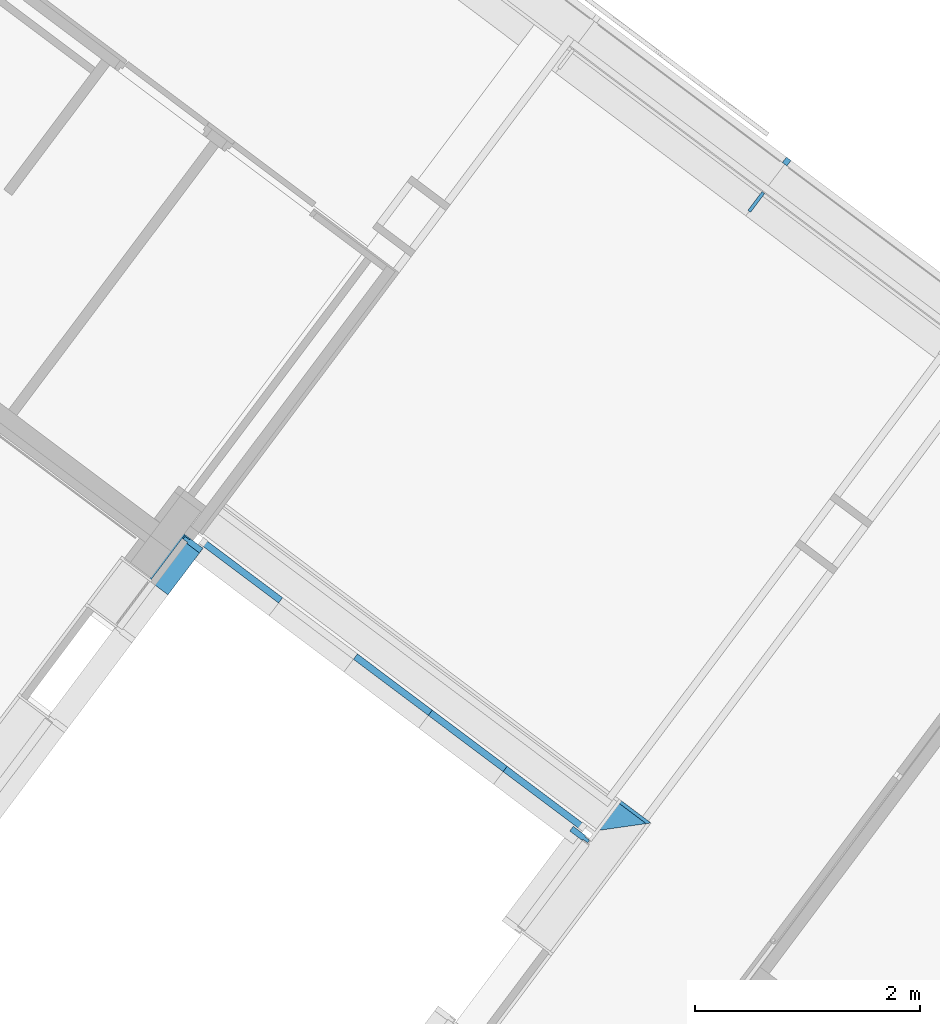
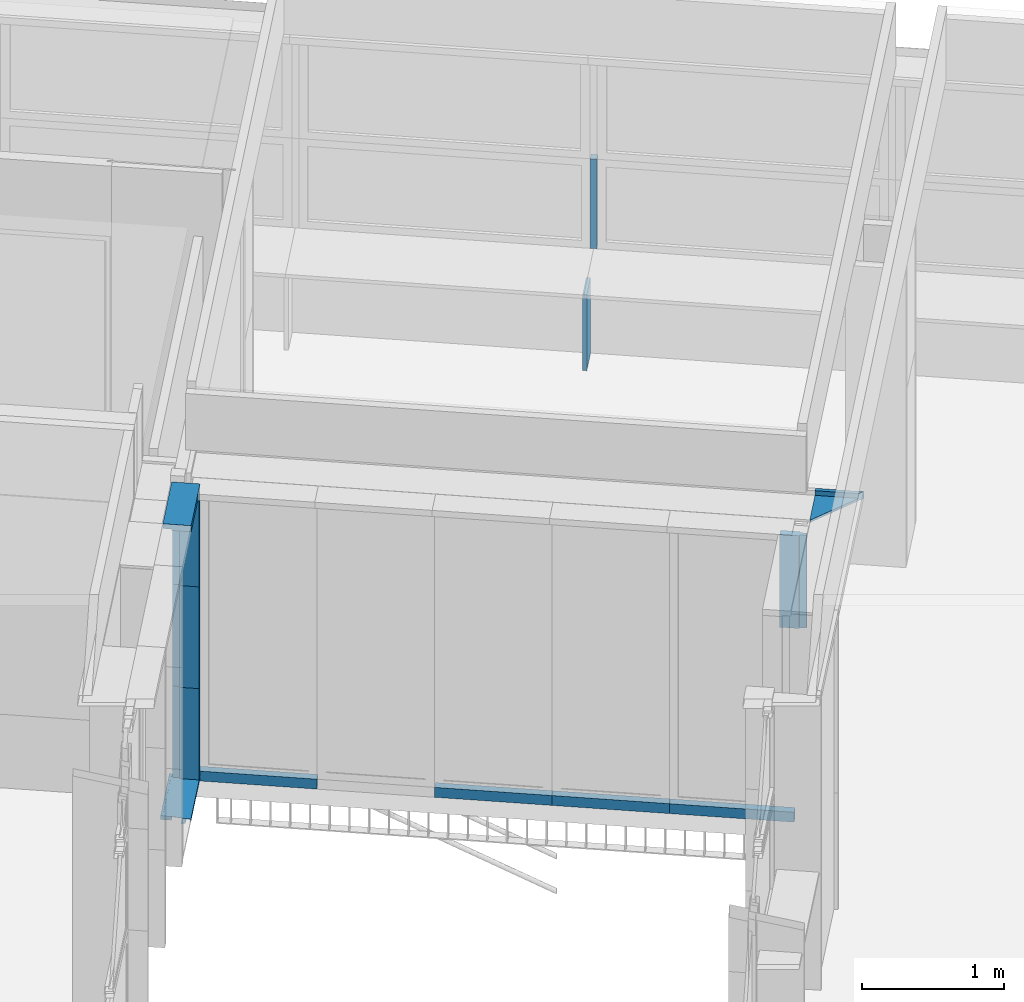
# One storey, part 98 of 243: 13 members, 6 elements without a shape of their own.
"""IFC2X3 building model written with IfcOpenShell, lengths in metres."""

import ifcopenshell
import ifcopenshell.guid

model = None  # the IFC model being written
_history = None  # IfcOwnerHistory: only IFC2X3 demands one
_inside = {}  # id of a spatial element -> (the spatial element, [elements in it])
_under = {}  # id of a project, library or spatial element -> (it, [spatial elements below it])
_declared = {}  # id of a project -> (the project, [libraries it declares])
_typed = {}  # id of a type object -> (the type object, [elements of that type])
_made_of = {}  # id of a material, layer set ... -> (it, [elements and type objects made of it])


def new_model(schema):
    """Start an empty IFC model of exactly this schema.

    Asked for "IFC4X3", IfcOpenShell would pick the latest addendum, in which some entities
    have other attributes; the version numbers below select the first issue.
    IFC2X3 requires an IfcOwnerHistory on every rooted entity: one is made here for all.
    """
    global model, _history
    if schema == "IFC4X3":
        model = ifcopenshell.file(schema_version=(4, 3, 0, 0))
    else:
        model = ifcopenshell.file(schema=schema)
    _inside.clear()
    _under.clear()
    _declared.clear()
    _typed.clear()
    _made_of.clear()
    _history = None
    if model.schema == "IFC2X3":
        org = make("IfcOrganization", Name="unknown")
        user = make(
            "IfcPersonAndOrganization",
            ThePerson=make("IfcPerson", FamilyName="unknown"),
            TheOrganization=org,
        )
        app = make(
            "IfcApplication",
            ApplicationDeveloper=org,
            Version="unknown",
            ApplicationFullName="unknown",
            ApplicationIdentifier="unknown",
        )
        _history = make(
            "IfcOwnerHistory",
            OwningUser=user,
            OwningApplication=app,
            ChangeAction="ADDED",
            CreationDate=0,
        )
    return model


def make(cls, **values):
    """One entity of the class cls with the attributes given. An attribute that is None is left unset."""
    return model.create_entity(
        cls, **{name: value for name, value in values.items() if value is not None}
    )


def entity(cls, *values):
    """Any entity or typed value of the class cls, its attributes in the order of the schema. None: left unset."""
    e = model.create_entity(cls)
    for i, value in enumerate(values):
        if value is not None:
            e[i] = value
    return e


def rooted(cls, **values):
    """An entity with a GlobalId (a new one), such as an element, a storey or a relation."""
    return make(cls, GlobalId=ifcopenshell.guid.new(), OwnerHistory=_history, **values)


def si_unit(unit_type, name, prefix=None):
    """IfcSIUnit, for example si_unit("LENGTHUNIT", "METRE", prefix="MILLI")."""
    return make("IfcSIUnit", UnitType=unit_type, Prefix=prefix, Name=name)


def converted_unit(unit_type, name, factor, base, dimensions=None, offset=None):
    """IfcConversionBasedUnit, such as the inch: factor (a typed value) times the base unit."""
    return make(
        "IfcConversionBasedUnit"
        if offset is None
        else "IfcConversionBasedUnitWithOffset",
        ConversionOffset=offset,
        Dimensions=None
        if dimensions is None
        else entity("IfcDimensionalExponents", *dimensions),
        UnitType=unit_type,
        Name=name,
        ConversionFactor=make(
            "IfcMeasureWithUnit", ValueComponent=factor, UnitComponent=base
        ),
    )


def derived_unit(unit_type, elements):
    """IfcDerivedUnit: a product of units, each with its exponent."""
    return make(
        "IfcDerivedUnit",
        Elements=[
            make("IfcDerivedUnitElement", Unit=unit, Exponent=power)
            for unit, power in elements
        ],
        UnitType=unit_type,
    )


def assignment(units):
    """IfcUnitAssignment: the units of a project."""
    return None if units is None else make("IfcUnitAssignment", Units=units)


def point(xyz):
    """IfcCartesianPoint."""
    return None if xyz is None else make("IfcCartesianPoint", Coordinates=xyz)


def direction(xyz):
    """IfcDirection."""
    return None if xyz is None else make("IfcDirection", DirectionRatios=xyz)


def frame(location, z_axis=None, x_axis=None):
    """IfcAxis2Placement3D, a coordinate frame: its origin and axes. An axis left out is left unset."""
    return make(
        "IfcAxis2Placement3D",
        Location=point(location),
        Axis=direction(z_axis),
        RefDirection=direction(x_axis),
    )


def frame_2d(location, x_axis=None):
    """IfcAxis2Placement2D, a coordinate frame in the plane: its origin and x axis."""
    return make(
        "IfcAxis2Placement2D", Location=point(location), RefDirection=direction(x_axis)
    )


def origin():
    """The frame at (0, 0, 0) with its axes left unset."""
    return frame((0.0, 0.0, 0.0))


def place(relative_to, where):
    """IfcLocalPlacement: puts the frame where relative to a parent placement (None: the world)."""
    return make(
        "IfcLocalPlacement", PlacementRelTo=relative_to, RelativePlacement=where
    )


def context(
    kind, dimensions, precision=None, world=None, true_north=None, identifier=None
):
    """IfcGeometricRepresentationContext, for example the 3D "Model" context."""
    return make(
        "IfcGeometricRepresentationContext",
        ContextIdentifier=identifier,
        ContextType=kind,
        CoordinateSpaceDimension=dimensions,
        Precision=precision,
        WorldCoordinateSystem=world,
        TrueNorth=true_north,
    )


def subcontext(parent, identifier, kind, view, scale=None):
    """IfcGeometricRepresentationSubContext, for example "Body" below "Model"."""
    return make(
        "IfcGeometricRepresentationSubContext",
        ContextIdentifier=identifier,
        ContextType=kind,
        ParentContext=parent,
        TargetScale=scale,
        TargetView=view,
    )


def project(units=None, contexts=None):
    """IfcProject with its units and contexts."""
    return rooted(
        "IfcProject",
        Name="project",
        RepresentationContexts=contexts,
        UnitsInContext=assignment(units),
    )


def spatial(cls, under=None, at=None, **own):
    """A site, building, storey or space (cls), placed at a placement, below another one or the project."""
    s = rooted(cls, ObjectPlacement=at, **own)
    if under is not None:
        _under.setdefault(under.id(), (under, []))[1].append(s)
    return s


def polyline(points):
    """IfcPolyline through the points."""
    return make("IfcPolyline", Points=[point(p) for p in points])


def circle_curve(where, radius):
    """IfcCircle in the frame where."""
    return make("IfcCircle", Position=where, Radius=radius)


def parameter(value):
    """IfcParameterValue: where a trimmed curve begins or ends, as a parameter of its basis curve."""
    return model.create_entity("IfcParameterValue", value)


def trimmed(basis, trim1, trim2, sense, master):
    """IfcTrimmedCurve: the piece of a basis curve between two trims."""
    return make(
        "IfcTrimmedCurve",
        BasisCurve=basis,
        Trim1=trim1,
        Trim2=trim2,
        SenseAgreement=sense,
        MasterRepresentation=master,
    )


def segment(curve, same_sense, transition):
    """IfcCompositeCurveSegment."""
    return make(
        "IfcCompositeCurveSegment",
        Transition=transition,
        SameSense=same_sense,
        ParentCurve=curve,
    )


def composite_curve(segments, self_intersect=None):
    """IfcCompositeCurve: segments joined end to end."""
    return make("IfcCompositeCurve", Segments=segments, SelfIntersect=self_intersect)


def profile(cls, at=None, kind="AREA", **sizes):
    """A parametric profile (cls). Its sizes go by their IFC names, for example OverallWidth=200.0."""
    return make(cls, ProfileType=kind, Position=at, **sizes)


def rectangle(**sizes):
    """IfcRectangleProfileDef."""
    return profile("IfcRectangleProfileDef", **sizes)


def outline(outer, holes=None, kind="AREA"):
    """IfcArbitraryClosedProfileDef: a profile drawn as a closed curve; with holes, ...WithVoids."""
    if holes is None:
        return make("IfcArbitraryClosedProfileDef", ProfileType=kind, OuterCurve=outer)
    return make(
        "IfcArbitraryProfileDefWithVoids",
        ProfileType=kind,
        OuterCurve=outer,
        InnerCurves=holes,
    )


def extrude(swept, where, along, depth):
    """IfcExtrudedAreaSolid: the profile swept, set in the frame where, extruded along a direction by depth."""
    return make(
        "IfcExtrudedAreaSolid",
        SweptArea=swept,
        Position=where,
        ExtrudedDirection=direction(along),
        Depth=depth,
    )


def clip(a, b, op="DIFFERENCE"):
    """IfcBooleanClippingResult: the solid a cut by the half space b."""
    return make(
        "IfcBooleanClippingResult", Operator=op, FirstOperand=a, SecondOperand=b
    )


def halfspace(plane, agree):
    """IfcHalfSpaceSolid: all space on one side of the plane z = 0 of the frame plane."""
    return make(
        "IfcHalfSpaceSolid",
        BaseSurface=make("IfcPlane", Position=plane),
        AgreementFlag=agree,
    )


def shape(context_of_items, identifier, shape_type, items):
    """IfcShapeRepresentation: the items that make up one representation, for example the "Body"."""
    return make(
        "IfcShapeRepresentation",
        ContextOfItems=context_of_items,
        RepresentationIdentifier=identifier,
        RepresentationType=shape_type,
        Items=items,
    )


def source(mapping_origin, context_of_items, identifier, shape_type, items):
    """IfcRepresentationMap: a shape defined once, which mapped items show again and again."""
    return make(
        "IfcRepresentationMap",
        MappingOrigin=mapping_origin,
        MappedRepresentation=shape(context_of_items, identifier, shape_type, items),
    )


def transform(
    local_origin,
    x_axis=None,
    y_axis=None,
    z_axis=None,
    scale=None,
    scale2=None,
    scale3=None,
    uniform=True,
):
    """IfcCartesianTransformationOperator3D, or its non-uniform kind. x_axis, y_axis, z_axis: its Axis1, 2, 3."""
    if uniform:
        return make(
            "IfcCartesianTransformationOperator3D",
            Axis1=direction(x_axis),
            Axis2=direction(y_axis),
            LocalOrigin=point(local_origin),
            Scale=scale,
            Axis3=direction(z_axis),
        )
    return make(
        "IfcCartesianTransformationOperator3DnonUniform",
        Axis1=direction(x_axis),
        Axis2=direction(y_axis),
        LocalOrigin=point(local_origin),
        Scale=scale,
        Axis3=direction(z_axis),
        Scale2=scale2,
        Scale3=scale3,
    )


def mapped(mapping_source, mapping_target):
    """IfcMappedItem: shows the shape of a source again, moved by a transform."""
    return make(
        "IfcMappedItem", MappingSource=mapping_source, MappingTarget=mapping_target
    )


def material(Name=None, Category=None):
    """IfcMaterial."""
    return make("IfcMaterial", Name=Name, Category=Category)


def made_of(thing, what):
    """Note that an element or type object is made of a material, layer set ...; save() writes the relation."""
    if what is not None:
        _made_of.setdefault(what.id(), (what, []))[1].append(thing)
    return thing


def type_object(cls, material=None, **own):
    """A type object (cls), such as IfcWallType, which elements share."""
    return made_of(rooted(cls, **own), material)


def type_shapes(of_type, sources):
    """Give a type object the sources (RepresentationMaps) that its elements show as mapped items."""
    of_type.RepresentationMaps = sources


def element(
    cls,
    number,
    at=None,
    inside=None,
    cuts=None,
    type_object=None,
    material=None,
    context=None,
    identifier="Body",
    shape_type=None,
    held_by="IfcProductDefinitionShape",
    body=None,
    shapes=None,
    **own,
):
    """One element of the class cls, such as IfcWall. Its Tag is "e" and its number.

    at: its placement. inside: the storey or other place that contains it. cuts: it is an
    opening in that element (IfcRelVoidsElement). A single representation is given by context,
    identifier, shape_type and body (its items); several are given by shapes. held_by: the class
    of the entity that holds the representations. save() writes the other relations.
    """
    e = rooted(cls, Tag="e%d" % number, ObjectPlacement=at, **own)
    if body is not None:
        shapes = [shape(context, identifier, shape_type, body)]
    if shapes is not None:
        e.Representation = make(held_by, Representations=shapes)
    if inside is not None:
        _inside.setdefault(inside.id(), (inside, []))[1].append(e)
    if cuts is not None:
        rooted(
            "IfcRelVoidsElement", RelatingBuildingElement=cuts, RelatedOpeningElement=e
        )
    if type_object is not None:
        _typed.setdefault(type_object.id(), (type_object, []))[1].append(e)
    return made_of(e, material)


def aggregate(whole, parts):
    """IfcRelAggregates: a whole, such as a stair, and the parts it consists of."""
    return rooted("IfcRelAggregates", RelatingObject=whole, RelatedObjects=parts)


def save(model, path):
    """Write the relations noted so far, then the file.

    IfcRelAggregates (storeys below a building ...), IfcRelContainedInSpatialStructure (elements
    in a storey), IfcRelDefinesByType, IfcRelAssociatesMaterial and IfcRelDeclares: one each for
    every whole, place, type object, material and project.
    """
    for whole, parts in _under.values():
        aggregate(whole, parts)
    for where, things in _inside.values():
        rooted(
            "IfcRelContainedInSpatialStructure",
            RelatedElements=things,
            RelatingStructure=where,
        )
    for kind, things in _typed.values():
        rooted("IfcRelDefinesByType", RelatedObjects=things, RelatingType=kind)
    for what, things in _made_of.values():
        rooted("IfcRelAssociatesMaterial", RelatedObjects=things, RelatingMaterial=what)
    for by, libraries in _declared.values():
        rooted("IfcRelDeclares", RelatingContext=by, RelatedDefinitions=libraries)
    model.write(path)


model = new_model("IFC2X3")

# Units and contexts
model_context = context("Model", 3, precision=1e-05, world=origin(), true_north=direction((6.123031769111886e-17, 1.0)))
body_context = subcontext(model_context, "Body", "Model", "MODEL_VIEW")
ifc_project = project(units=[si_unit("LENGTHUNIT", "METRE"), si_unit("AREAUNIT", "SQUARE_METRE"), si_unit("VOLUMEUNIT", "CUBIC_METRE"), converted_unit("PLANEANGLEUNIT", "DEGREE", entity("IfcRatioMeasure", 0.017453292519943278), si_unit("PLANEANGLEUNIT", "RADIAN"), dimensions=[0, 0, 0, 0, 0, 0, 0]), si_unit("MASSUNIT", "GRAM", prefix="KILO"), derived_unit("MASSDENSITYUNIT", [(si_unit("MASSUNIT", "GRAM", prefix="KILO"), 1), (si_unit("LENGTHUNIT", "METRE"), -3)]), derived_unit("IONCONCENTRATIONUNIT", [(si_unit("MASSUNIT", "GRAM", prefix="KILO"), 1), (si_unit("LENGTHUNIT", "METRE"), -3)]), derived_unit("MOMENTOFINERTIAUNIT", [(si_unit("LENGTHUNIT", "METRE"), 4)]), si_unit("TIMEUNIT", "SECOND"), si_unit("FREQUENCYUNIT", "HERTZ"), si_unit("THERMODYNAMICTEMPERATUREUNIT", "DEGREE_CELSIUS"), derived_unit("THERMALTRANSMITTANCEUNIT", [(si_unit("MASSUNIT", "GRAM", prefix="KILO"), 1), (si_unit("THERMODYNAMICTEMPERATUREUNIT", "KELVIN"), -1), (si_unit("TIMEUNIT", "SECOND"), -3)]), derived_unit("THERMALCONDUCTANCEUNIT", [(si_unit("MASSUNIT", "GRAM", prefix="KILO"), 1), (si_unit("THERMODYNAMICTEMPERATUREUNIT", "KELVIN"), -1), (si_unit("TIMEUNIT", "SECOND"), -3), (si_unit("LENGTHUNIT", "METRE"), 1)]), derived_unit("VOLUMETRICFLOWRATEUNIT", [(si_unit("LENGTHUNIT", "METRE"), 3), (si_unit("TIMEUNIT", "SECOND"), -1)]), derived_unit("MASSFLOWRATEUNIT", [(si_unit("MASSUNIT", "GRAM", prefix="KILO"), 1), (si_unit("TIMEUNIT", "SECOND"), -1)]), derived_unit("ROTATIONALFREQUENCYUNIT", [(si_unit("TIMEUNIT", "SECOND"), -1)]), si_unit("ELECTRICCURRENTUNIT", "AMPERE"), si_unit("ELECTRICVOLTAGEUNIT", "VOLT"), si_unit("POWERUNIT", "WATT"), si_unit("FORCEUNIT", "NEWTON", prefix="KILO"), si_unit("ILLUMINANCEUNIT", "LUX"), si_unit("LUMINOUSFLUXUNIT", "LUMEN"), si_unit("LUMINOUSINTENSITYUNIT", "CANDELA"), derived_unit("USERDEFINED", [(si_unit("MASSUNIT", "GRAM", prefix="KILO"), -1), (si_unit("LENGTHUNIT", "METRE"), -2), (si_unit("TIMEUNIT", "SECOND"), 3), (si_unit("LUMINOUSFLUXUNIT", "LUMEN"), 1)]), derived_unit("USERDEFINED", [(si_unit("MASSUNIT", "GRAM", prefix="KILO"), 1), (si_unit("TIMEUNIT", "SECOND"), -3), (si_unit("LENGTHUNIT", "METRE"), 3), (si_unit("ELECTRICCURRENTUNIT", "AMPERE"), -2)]), derived_unit("SOUNDPOWERUNIT", [(si_unit("MASSUNIT", "GRAM", prefix="KILO"), 1), (si_unit("TIMEUNIT", "SECOND"), -3), (si_unit("LENGTHUNIT", "METRE"), 2)]), derived_unit("SOUNDPRESSUREUNIT", [(si_unit("MASSUNIT", "GRAM", prefix="KILO"), 1), (si_unit("LENGTHUNIT", "METRE"), -1), (si_unit("TIMEUNIT", "SECOND"), -2)]), derived_unit("LINEARVELOCITYUNIT", [(si_unit("LENGTHUNIT", "METRE"), 1), (si_unit("TIMEUNIT", "SECOND"), -1)]), si_unit("PRESSUREUNIT", "PASCAL"), derived_unit("USERDEFINED", [(si_unit("MASSUNIT", "GRAM", prefix="KILO"), 1), (si_unit("LENGTHUNIT", "METRE"), -2), (si_unit("TIMEUNIT", "SECOND"), -2)]), derived_unit("LINEARFORCEUNIT", [(si_unit("MASSUNIT", "GRAM", prefix="KILO"), 1), (si_unit("TIMEUNIT", "SECOND"), -2)]), derived_unit("PLANARFORCEUNIT", [(si_unit("MASSUNIT", "GRAM", prefix="KILO"), 1), (si_unit("LENGTHUNIT", "METRE"), -1), (si_unit("TIMEUNIT", "SECOND"), -2)]), derived_unit("SPECIFICHEATCAPACITYUNIT", [(si_unit("THERMODYNAMICTEMPERATUREUNIT", "KELVIN"), -1), (si_unit("LENGTHUNIT", "METRE"), 2), (si_unit("TIMEUNIT", "SECOND"), -2)]), derived_unit("HEATINGVALUEUNIT", [(si_unit("LENGTHUNIT", "METRE"), 2), (si_unit("TIMEUNIT", "SECOND"), -2)]), derived_unit("VAPORPERMEABILITYUNIT", [(si_unit("LENGTHUNIT", "METRE"), -1), (si_unit("TIMEUNIT", "SECOND"), 1)]), derived_unit("DYNAMICVISCOSITYUNIT", [(si_unit("MASSUNIT", "GRAM", prefix="KILO"), 1), (si_unit("TIMEUNIT", "SECOND"), -1), (si_unit("LENGTHUNIT", "METRE"), -1)]), derived_unit("THERMALEXPANSIONCOEFFICIENTUNIT", [(si_unit("THERMODYNAMICTEMPERATUREUNIT", "KELVIN"), -1)]), derived_unit("MODULUSOFELASTICITYUNIT", [(si_unit("MASSUNIT", "GRAM", prefix="KILO"), 1), (si_unit("LENGTHUNIT", "METRE"), -1), (si_unit("TIMEUNIT", "SECOND"), -2)]), derived_unit("ISOTHERMALMOISTURECAPACITYUNIT", [(si_unit("LENGTHUNIT", "METRE"), 3), (si_unit("MASSUNIT", "GRAM", prefix="KILO"), -1)]), derived_unit("MOISTUREDIFFUSIVITYUNIT", [(si_unit("TIMEUNIT", "SECOND"), -1), (si_unit("LENGTHUNIT", "METRE"), 2)])], contexts=[model_context])

# Site, building, storey
site_placement = place(None, frame((0.0, 0.0, 235.0), z_axis=(0.0, 0.0, 1.0), x_axis=(-0.7996477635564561, 0.6004693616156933, 0.0)))
site = spatial("IfcSite", under=ifc_project, at=site_placement, Name="Default", CompositionType="ELEMENT")
building_placement = place(site_placement, origin())
building = spatial("IfcBuilding", under=site, at=building_placement, CompositionType="ELEMENT")
storey_placement = place(building_placement, origin())
storey = spatial("IfcBuildingStorey", under=building, at=storey_placement, Name="P0- Escola", CompositionType="ELEMENT", Elevation=0.0)

# Curtain wall, members
curtain_wall_type_1 = type_object("IfcCurtainWallType", Name="Muro cortina:MC- EXT- MC2", PredefinedType="NOTDEFINED")
curtain_wall_1_placement = place(storey_placement, origin())
curtain_wall_1 = element("IfcCurtainWall", 1, at=curtain_wall_1_placement, inside=storey, type_object=curtain_wall_type_1, Name="Muro cortina:MC- EXT- MC2", ObjectType="Muro cortina:MC- EXT- MC2")
ifc_material_1 = material(Name="_Alumini- T1- Perfil")
member_type_1 = type_object("IfcMemberType", Name="Montante rectangular:MC- Alu- 140x52,5 cm- Fa patis- Centre", PredefinedType="MULLION", material=ifc_material_1)
shared_shape_1 = source(origin(), body_context, "Body", "SweptSolid", [
    extrude(outline(polyline([(-0.11699999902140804, -0.026250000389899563), (0.021999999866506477, -0.026250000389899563), (0.021999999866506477, -0.015000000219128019), (0.07299999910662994, -0.015000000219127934), (0.07299999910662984, 0.015000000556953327), (0.02200000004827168, 0.015000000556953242), (0.02200000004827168, 0.026250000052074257), (-0.11699999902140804, 0.026250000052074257), (-0.11699999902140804, -0.026250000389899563)])), frame((-0.026250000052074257, 0.022999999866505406, -0.8750000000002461), z_axis=(0.0, 0.0, 1.0), x_axis=(0.0, -1.0, 0.0)), (0.0, 0.0, 1.0), 0.8750000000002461),
])
type_shapes(member_type_1, [shared_shape_1])
member_1_placement = place(curtain_wall_1_placement, frame((53.745147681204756, -36.441389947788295, 0.8200000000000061), z_axis=(0.0, 0.0, -1.0), x_axis=(0.0, -1.0, 0.0)))
member_1 = element("IfcMember", 2, at=member_1_placement, type_object=member_type_1, material=ifc_material_1, Name="Montante rectangular:MC- Alu- 140x52,5 cm- Fa patis- Centre", ObjectType="Montante rectangular:MC- Alu- 140x52,5 cm- Fa patis- Centre", context=body_context, shape_type="MappedRepresentation", body=[
    mapped(shared_shape_1, transform((0.0, 0.0, 0.0), scale=1.0)),
])
member_type_2 = type_object("IfcMemberType", Name="Montante rectangular:MC- Alu- 140x52,5 cm- Fa patis- Superior", PredefinedType="MULLION", material=ifc_material_1)
shared_shape_2 = source(origin(), body_context, "Body", "SweptSolid", [
    extrude(outline(polyline([(-0.11366666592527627, -0.021249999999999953), (0.02633333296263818, -0.021249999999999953), (0.02633333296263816, -0.010000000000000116), (0.08733333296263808, -0.010000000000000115), (0.08733333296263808, 0.03125000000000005), (-0.11366666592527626, 0.031250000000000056), (-0.11366666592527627, -0.021249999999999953)])), frame((-0.031250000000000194, 0.027333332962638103, -0.518199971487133), z_axis=(0.0, 0.0, 1.0), x_axis=(0.0, -1.0, 0.0)), (0.0, 0.0, 1.0), 0.518199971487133),
])
type_shapes(member_type_2, [shared_shape_2])
member_2_placement = place(curtain_wall_1_placement, frame((53.745147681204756, -36.441389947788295, 2.545), z_axis=(0.0, -1.0, 0.0), x_axis=(0.0, 0.0, 1.0)))
member_2 = element("IfcMember", 3, at=member_2_placement, type_object=member_type_2, material=ifc_material_1, Name="Montante rectangular:MC- Alu- 140x52,5 cm- Fa patis- Superior", ObjectType="Montante rectangular:MC- Alu- 140x52,5 cm- Fa patis- Superior", context=body_context, shape_type="MappedRepresentation", body=[
    mapped(shared_shape_2, transform((0.0, 0.0, 0.0), scale=1.0)),
])
member_type_3 = type_object("IfcMemberType", Name="Montante rectangular:MC- Alu- 140x52,5 cm- Fa patis- Centre", PredefinedType="MULLION", material=ifc_material_1)
shared_shape_3 = source(origin(), body_context, "Body", "SweptSolid", [
    extrude(outline(polyline([(-0.11699999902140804, -0.026250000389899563), (0.021999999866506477, -0.026250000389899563), (0.021999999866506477, -0.015000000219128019), (0.07299999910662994, -0.015000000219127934), (0.07299999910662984, 0.015000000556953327), (0.02200000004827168, 0.015000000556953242), (0.02200000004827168, 0.026250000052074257), (-0.11699999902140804, 0.026250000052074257), (-0.11699999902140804, -0.026250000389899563)])), frame((-0.026250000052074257, 0.022999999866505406, -0.7850000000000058), z_axis=(0.0, 0.0, 1.0), x_axis=(0.0, -1.0, 0.0)), (0.0, 0.0, 1.0), 0.7850000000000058),
])
type_shapes(member_type_3, [shared_shape_3])
member_3_placement = place(curtain_wall_1_placement, frame((53.745147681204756, -36.441389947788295, 0.035000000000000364), z_axis=(0.0, 0.0, -1.0), x_axis=(0.0, -1.0, 0.0)))
member_3 = element("IfcMember", 4, at=member_3_placement, type_object=member_type_3, material=ifc_material_1, Name="Montante rectangular:MC- Alu- 140x52,5 cm- Fa patis- Centre", ObjectType="Montante rectangular:MC- Alu- 140x52,5 cm- Fa patis- Centre", context=body_context, shape_type="MappedRepresentation", body=[
    mapped(shared_shape_3, transform((0.0, 0.0, 0.0), scale=1.0)),
])
member_type_4 = type_object("IfcMemberType", Name="Montante rectangular:MC- Alu- 140x52,5 cm- Fa patis- inferior", PredefinedType="MULLION", material=ifc_material_1)
shared_shape_4 = source(origin(), body_context, "Body", "SweptSolid", [
    extrude(outline(composite_curve([segment(polyline([(0.1278672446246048, -0.025867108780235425), (0.14416724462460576, -0.025867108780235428)]), True, "CONTINUOUS"), segment(polyline([(0.14416724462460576, -0.025867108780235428), (0.1441672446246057, 0.009132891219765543)]), True, "CONTINUOUS"), segment(polyline([(0.1441672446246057, 0.009132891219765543), (0.06786724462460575, 0.00913289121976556)]), True, "CONTINUOUS"), segment(polyline([(0.06786724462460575, 0.00913289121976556), (0.06786724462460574, -0.021159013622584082)]), True, "CONTINUOUS"), segment(polyline([(0.06786724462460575, -0.021159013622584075), (-0.030132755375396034, -0.012332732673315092)]), True, "CONTINUOUS"), segment(polyline([(-0.03013275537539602, -0.012332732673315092), (-0.030132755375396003, 0.02713289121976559)]), True, "CONTINUOUS"), segment(polyline([(-0.030132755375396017, 0.027132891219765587), (-0.0021327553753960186, 0.027132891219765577)]), True, "CONTINUOUS"), segment(polyline([(-0.0021327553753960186, 0.02713289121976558), (-0.0021327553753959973, 0.02913289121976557)]), True, "CONTINUOUS"), segment(polyline([(-0.0021327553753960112, 0.02913289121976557), (-0.032132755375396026, 0.029132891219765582)]), True, "CONTINUOUS"), segment(polyline([(-0.032132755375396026, 0.029132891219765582), (-0.03213275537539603, -0.012152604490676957)]), True, "CONTINUOUS"), segment(polyline([(-0.03213275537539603, -0.012152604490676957), (-0.0701327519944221, -0.008730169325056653)]), True, "CONTINUOUS"), segment(polyline([(-0.0701327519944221, -0.008730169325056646), (-0.0701327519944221, 0.005766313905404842)]), True, "CONTINUOUS"), segment(trimmed(circle_curve(frame_2d((-0.0696327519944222, 0.00576631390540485), x_axis=(-1.0, 0.0)), 0.0004999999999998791), [parameter(269.999999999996)], [parameter(0.0)], True, "PARAMETER"), False, "CONTINUOUS"), segment(polyline([(-0.0696327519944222, 0.0062663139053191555), (-0.06213275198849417, 0.006266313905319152)]), True, "CONTINUOUS"), segment(polyline([(-0.06213275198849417, 0.006266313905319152), (-0.06213275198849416, 0.008266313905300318)]), True, "CONTINUOUS"), segment(polyline([(-0.06213275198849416, 0.008266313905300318), (-0.07013275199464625, 0.00826631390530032)]), True, "CONTINUOUS"), segment(trimmed(circle_curve(frame_2d((-0.07013275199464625, 0.006266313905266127), x_axis=(0.0, 1.0)), 0.0020000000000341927), [parameter(0.0)], [parameter(90.00000002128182)], True, "PARAMETER"), True, "CONTINUOUS"), segment(polyline([(-0.07213275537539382, 0.00626631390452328), (-0.07213275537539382, -0.008730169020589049)]), True, "CONTINUOUS"), segment(trimmed(circle_curve(frame_2d((-0.07013275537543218, -0.008730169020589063), x_axis=(-1.0, 0.0)), 0.0019999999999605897), [parameter(0.0)], [parameter(84.85359280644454)], True, "PARAMETER"), True, "CONTINUOUS"), segment(polyline([(-0.07031215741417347, -0.010722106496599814), (0.06786724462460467, -0.023167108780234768)]), True, "CONTINUOUS"), segment(polyline([(0.06786724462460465, -0.02316710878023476), (0.12786724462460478, -0.02316710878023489)]), True, "CONTINUOUS"), segment(polyline([(0.12786724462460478, -0.02316710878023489), (0.1278672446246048, -0.025867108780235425)]), True, "CONTINUOUS")], self_intersect=False)), frame((-0.029132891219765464, 0.06786724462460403, -0.518199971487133), z_axis=(0.0, 0.0, 1.0), x_axis=(0.0, -1.0, 0.0)), (0.0, 0.0, 1.0), 0.518199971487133),
])
type_shapes(member_type_4, [shared_shape_4])
member_4_placement = place(curtain_wall_1_placement, frame((53.745147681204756, -35.92318997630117, -0.02), z_axis=(0.0, 1.0, 0.0), x_axis=(0.0, 0.0, -1.0)))
member_4 = element("IfcMember", 5, at=member_4_placement, type_object=member_type_4, material=ifc_material_1, Name="Montante rectangular:MC- Alu- 140x52,5 cm- Fa patis- inferior", ObjectType="Montante rectangular:MC- Alu- 140x52,5 cm- Fa patis- inferior", context=body_context, shape_type="MappedRepresentation", body=[
    mapped(shared_shape_4, transform((0.0, 0.0, 0.0), scale=1.0)),
])
member_type_5 = type_object("IfcMemberType", Name="Montante rectangular:MC- Alu- 140x52,5 cm- Fa patis- Centre", PredefinedType="MULLION", material=ifc_material_1)
shared_shape_5 = source(origin(), body_context, "Body", "SweptSolid", [
    extrude(outline(polyline([(-0.11699999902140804, -0.026250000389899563), (0.021999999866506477, -0.026250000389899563), (0.021999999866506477, -0.015000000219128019), (0.07299999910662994, -0.015000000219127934), (0.07299999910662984, 0.015000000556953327), (0.02200000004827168, 0.015000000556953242), (0.02200000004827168, 0.026250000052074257), (-0.11699999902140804, 0.026250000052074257), (-0.11699999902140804, -0.026250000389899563)])), frame((-0.026250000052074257, 0.022999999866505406, -0.79749999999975), z_axis=(0.0, 0.0, 1.0), x_axis=(0.0, -1.0, 0.0)), (0.0, 0.0, 1.0), 0.79749999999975),
])
type_shapes(member_type_5, [shared_shape_5])
member_5_placement = place(curtain_wall_1_placement, frame((53.745147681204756, -36.441389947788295, 1.6950000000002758), z_axis=(0.0, 0.0, -1.0), x_axis=(0.0, -1.0, 0.0)))
member_5 = element("IfcMember", 6, at=member_5_placement, type_object=member_type_5, material=ifc_material_1, Name="Montante rectangular:MC- Alu- 140x52,5 cm- Fa patis- Centre", ObjectType="Montante rectangular:MC- Alu- 140x52,5 cm- Fa patis- Centre", context=body_context, shape_type="MappedRepresentation", body=[
    mapped(shared_shape_5, transform((0.0, 0.0, 0.0), scale=1.0)),
])
aggregate(curtain_wall_1, [member_2, member_3, member_4, member_1, member_5])

# Curtain wall, member
curtain_wall_type_2 = type_object("IfcCurtainWallType", Name="Muro cortina:MC- EXT- MC5", PredefinedType="NOTDEFINED")
curtain_wall_2_placement = place(storey_placement, origin())
curtain_wall_2 = element("IfcCurtainWall", 7, at=curtain_wall_2_placement, inside=storey, type_object=curtain_wall_type_2, Name="Muro cortina:MC- EXT- MC5", ObjectType="Muro cortina:MC- EXT- MC5")
member_type_6 = type_object("IfcMemberType", Name="Montante rectangular:MC- Alu- 140x52,5 cm- Fa patis- Centre", PredefinedType="MULLION", material=ifc_material_1)
shared_shape_6 = source(origin(), body_context, "Body", "SweptSolid", [
    extrude(outline(polyline([(-0.021999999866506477, -0.026250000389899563), (0.11699999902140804, -0.026250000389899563), (0.11699999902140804, 0.026250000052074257), (-0.02200000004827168, 0.026250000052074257), (-0.02200000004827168, 0.015000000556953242), (-0.07299999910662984, 0.015000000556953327), (-0.07299999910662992, -0.015000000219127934), (-0.021999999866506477, -0.015000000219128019), (-0.021999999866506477, -0.026250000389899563)])), frame((-0.026250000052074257, -0.022999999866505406, -0.7974999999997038), z_axis=(0.0, 0.0, 1.0), x_axis=(0.0, -1.0, 0.0)), (0.0, 0.0, 1.0), 0.7974999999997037),
])
type_shapes(member_type_6, [shared_shape_6])
member_6_placement = place(curtain_wall_2_placement, frame((49.345147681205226, -36.44138994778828, 1.695000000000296), z_axis=(0.0, 0.0, -1.0), x_axis=(0.0, -1.0, 0.0)))
member_6 = element("IfcMember", 8, at=member_6_placement, type_object=member_type_6, material=ifc_material_1, Name="Montante rectangular:MC- Alu- 140x52,5 cm- Fa patis- Centre", ObjectType="Montante rectangular:MC- Alu- 140x52,5 cm- Fa patis- Centre", context=body_context, shape_type="MappedRepresentation", body=[
    mapped(shared_shape_6, transform((0.0, 0.0, 0.0), scale=1.0)),
])
aggregate(curtain_wall_2, [member_6])

curtain_wall_type_3 = type_object("IfcCurtainWallType", Name="Muro cortina:MC- EXT- MC6", PredefinedType="NOTDEFINED")
curtain_wall_3_placement = place(storey_placement, origin())
curtain_wall_3 = element("IfcCurtainWall", 9, at=curtain_wall_3_placement, inside=storey, type_object=curtain_wall_type_3, Name="Muro cortina:MC- EXT- MC6", ObjectType="Muro cortina:MC- EXT- MC6")
member_type_7 = type_object("IfcMemberType", Name="Montante rectangular:MC- Alu- 50x60 cm- Fa pista- Centre", PredefinedType="MULLION", material=ifc_material_1)
shared_shape_7 = source(origin(), body_context, "Body", "SweptSolid", [
    extrude(rectangle(XDim=0.0600000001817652, YDim=0.05, at=frame_2d((8.673617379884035e-18, 0.0), x_axis=(1.0, 0.0))), frame((0.0, -0.030000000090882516, -0.77), z_axis=(0.0, 0.0, 1.0), x_axis=(0.0, -1.0, 0.0)), (0.0, 0.0, 1.0), 0.77),
])
type_shapes(member_type_7, [shared_shape_7])
member_7_placement = place(curtain_wall_3_placement, frame((51.51814360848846, -42.340191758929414, 0.685), z_axis=(0.0, 0.0, -1.0), x_axis=(1.0, 0.0, 0.0)))
member_7 = element("IfcMember", 10, at=member_7_placement, type_object=member_type_7, material=ifc_material_1, Name="Montante rectangular:MC- Alu- 50x60 cm- Fa pista- Centre", ObjectType="Montante rectangular:MC- Alu- 50x60 cm- Fa pista- Centre", context=body_context, shape_type="MappedRepresentation", body=[
    mapped(shared_shape_7, transform((0.0, 0.0, 0.0), scale=1.0)),
])
aggregate(curtain_wall_3, [member_7])

curtain_wall_type_4 = type_object("IfcCurtainWallType", PredefinedType="NOTDEFINED")
curtain_wall_4_placement = place(storey_placement, origin())
curtain_wall_4 = element("IfcCurtainWall", 11, at=curtain_wall_4_placement, inside=storey, type_object=curtain_wall_type_4)
ifc_material_2 = material(Name="_Fusta massisa- T1")
member_type_8 = type_object("IfcMemberType", Name="Montante rectangular:MC- Fusta- 34x3 cm- Fa Pista- Pota taula", PredefinedType="MULLION", material=ifc_material_2)
shared_shape_8 = source(origin(), body_context, "Body", "SweptSolid", [
    extrude(rectangle(XDim=0.21000000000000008, YDim=0.03000000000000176, at=frame_2d((1.3877787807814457e-17, 1.717376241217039e-16), x_axis=(1.0, 0.0))), frame((0.0, -0.1700000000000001, -0.655000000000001), z_axis=(0.0, 0.0, 1.0), x_axis=(0.0, -1.0, 0.0)), (0.0, 0.0, 1.0), 0.655000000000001),
])
type_shapes(member_type_8, [shared_shape_8])
member_8_placement = place(curtain_wall_4_placement, frame((51.518143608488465, -42.03019175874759, 0.0), z_axis=(0.0, 0.0, -1.0), x_axis=(1.0, 0.0, 0.0)))
member_8 = element("IfcMember", 12, at=member_8_placement, type_object=member_type_8, material=ifc_material_2, Name="Montante rectangular:MC- Fusta- 34x3 cm- Fa Pista- Pota taula", ObjectType="Montante rectangular:MC- Fusta- 34x3 cm- Fa Pista- Pota taula", context=body_context, shape_type="MappedRepresentation", body=[
    mapped(shared_shape_8, transform((0.0, 0.0, 0.0), scale=1.0)),
])
aggregate(curtain_wall_4, [member_8])

curtain_wall_type_5 = type_object("IfcCurtainWallType", Name="Muro cortina:MC- INT- k2", PredefinedType="NOTDEFINED")
curtain_wall_5_placement = place(storey_placement, origin())
curtain_wall_5 = element("IfcCurtainWall", 13, at=curtain_wall_5_placement, inside=storey, type_object=curtain_wall_type_5, Name="Muro cortina:MC- INT- k2", ObjectType="Muro cortina:MC- INT- k2")
member_type_9 = type_object("IfcMemberType", Name="Montante rectangular:MC- Fusta- 35x3 cm- Pati aules- Remat superior", PredefinedType="MULLION", material=ifc_material_2)
shared_shape_9 = source(origin(), body_context, "Body", "SweptSolid", [
    clip(extrude(outline(polyline([(-0.12166666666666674, -0.02666666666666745), (0.21333333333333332, -0.02666666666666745), (0.2133333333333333, -0.006666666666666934), (-0.09166666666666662, -0.006666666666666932), (-0.09166666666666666, 0.03333333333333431), (-0.12166666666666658, 0.03333333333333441), (-0.12166666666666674, -0.02666666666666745)])), frame((-0.033333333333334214, -0.026666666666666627, -0.34000000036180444), z_axis=(0.0, 0.0, 1.0), x_axis=(0.0, -1.0, 0.0)), (0.0, 0.0, 1.0), 0.34000000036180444), halfspace(frame((0.3048, 0.0, -0.24500000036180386), z_axis=(0.0, -0.7071067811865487, -0.7071067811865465), x_axis=(0.0, -0.7071067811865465, 0.7071067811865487)), False)),
])
type_shapes(member_type_9, [shared_shape_9])
member_9_placement = place(curtain_wall_5_placement, frame((49.29014768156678, -36.7851899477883, 2.565), z_axis=(1.0, 0.0, 0.0), x_axis=(0.0, 0.0, 1.0)))
member_9 = element("IfcMember", 14, at=member_9_placement, type_object=member_type_9, material=ifc_material_2, Name="Montante rectangular:MC- Fusta- 35x3 cm- Pati aules- Remat superior", ObjectType="Montante rectangular:MC- Fusta- 35x3 cm- Pati aules- Remat superior", context=body_context, shape_type="MappedRepresentation", body=[
    mapped(shared_shape_9, transform((0.0, 0.0, 0.0), scale=1.0)),
])
aggregate(curtain_wall_5, [member_9])

# Curtain wall, members
curtain_wall_type_6 = type_object("IfcCurtainWallType", PredefinedType="NOTDEFINED")
curtain_wall_6_placement = place(storey_placement, origin())
curtain_wall_6 = element("IfcCurtainWall", 15, at=curtain_wall_6_placement, inside=storey, type_object=curtain_wall_type_6)
member_type_10 = type_object("IfcMemberType", Name="Montante rectangular:MC- Alu- 52x80 cm- Fa pista- inferior", PredefinedType="MULLION", material=ifc_material_1)
shared_shape_10 = source(origin(), body_context, "Body", "SweptSolid", [
    extrude(rectangle(XDim=0.06000000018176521, YDim=0.08500000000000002, at=frame_2d((-5.204170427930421e-18, -6.938893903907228e-18), x_axis=(1.0, 0.0))), frame((-0.0425, 0.030000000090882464, -0.8858000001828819), z_axis=(0.0, 0.0, 1.0), x_axis=(0.0, -1.0, 0.0)), (0.0, 0.0, 1.0), 0.8858000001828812),
])
type_shapes(member_type_10, [shared_shape_10])
member_10_placement = place(curtain_wall_6_placement, frame((49.39014768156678, -36.455189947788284, -0.02), z_axis=(-1.0, 0.0, 0.0), x_axis=(0.0, 0.0, -1.0)))
member_10 = element("IfcMember", 16, at=member_10_placement, type_object=member_type_10, material=ifc_material_1, Name="Montante rectangular:MC- Alu- 52x80 cm- Fa pista- inferior", ObjectType="Montante rectangular:MC- Alu- 52x80 cm- Fa pista- inferior", context=body_context, shape_type="MappedRepresentation", body=[
    mapped(shared_shape_10, transform((0.0, 0.0, 0.0), scale=1.0)),
])
member_type_11 = type_object("IfcMemberType", Name="Montante rectangular:MC- Alu- 52x80 cm- Fa pista- inferior", PredefinedType="MULLION", material=ifc_material_1)
shared_shape_11 = source(origin(), body_context, "Body", "SweptSolid", [
    extrude(rectangle(XDim=0.06000000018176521, YDim=0.08500000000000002, at=frame_2d((-5.204170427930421e-18, -6.938893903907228e-18), x_axis=(1.0, 0.0))), frame((-0.0425, 0.030000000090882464, -0.8327999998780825), z_axis=(0.0, 0.0, 1.0), x_axis=(0.0, -1.0, 0.0)), (0.0, 0.0, 1.0), 0.8327999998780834),
])
type_shapes(member_type_11, [shared_shape_11])
member_11_placement = place(curtain_wall_6_placement, frame((50.27594768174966, -36.455189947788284, -0.02), z_axis=(-1.0, 0.0, 0.0), x_axis=(0.0, 0.0, -1.0)))
member_11 = element("IfcMember", 17, at=member_11_placement, type_object=member_type_11, material=ifc_material_1, Name="Montante rectangular:MC- Alu- 52x80 cm- Fa pista- inferior", ObjectType="Montante rectangular:MC- Alu- 52x80 cm- Fa pista- inferior", context=body_context, shape_type="MappedRepresentation", body=[
    mapped(shared_shape_11, transform((0.0, 0.0, 0.0), scale=1.0)),
])
member_12_placement = place(curtain_wall_6_placement, frame((51.10874768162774, -36.45518994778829, -0.02), z_axis=(-1.0, 0.0, 0.0), x_axis=(0.0, 0.0, -1.0)))
member_12 = element("IfcMember", 18, at=member_12_placement, type_object=member_type_11, material=ifc_material_1, Name="Montante rectangular:MC- Alu- 52x80 cm- Fa pista- inferior", ObjectType="Montante rectangular:MC- Alu- 52x80 cm- Fa pista- inferior", context=body_context, shape_type="MappedRepresentation", body=[
    mapped(shared_shape_11, transform((0.0, 0.0, 0.0), scale=1.0)),
])
member_type_12 = type_object("IfcMemberType", Name="Montante rectangular:MC- Alu- 52x80 cm- Fa pista- inferior", PredefinedType="MULLION", material=ifc_material_1)
shared_shape_12 = source(origin(), body_context, "Body", "SweptSolid", [
    extrude(rectangle(XDim=0.06000000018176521, YDim=0.08500000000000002, at=frame_2d((-5.204170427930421e-18, -6.938893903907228e-18), x_axis=(1.0, 0.0))), frame((-0.0425, 0.030000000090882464, -0.8858000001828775), z_axis=(0.0, 0.0, 1.0), x_axis=(0.0, -1.0, 0.0)), (0.0, 0.0, 1.0), 0.8858000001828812),
])
type_shapes(member_type_12, [shared_shape_12])
member_13_placement = place(curtain_wall_6_placement, frame((52.7743476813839, -36.45518994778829, -0.02), z_axis=(-1.0, 0.0, 0.0), x_axis=(0.0, 0.0, -1.0)))
member_13 = element("IfcMember", 19, at=member_13_placement, type_object=member_type_12, material=ifc_material_1, Name="Montante rectangular:MC- Alu- 52x80 cm- Fa pista- inferior", ObjectType="Montante rectangular:MC- Alu- 52x80 cm- Fa pista- inferior", context=body_context, shape_type="MappedRepresentation", body=[
    mapped(shared_shape_12, transform((0.0, 0.0, 0.0), scale=1.0)),
])
aggregate(curtain_wall_6, [member_10, member_11, member_12, member_13])

save(model, "model.ifc")
